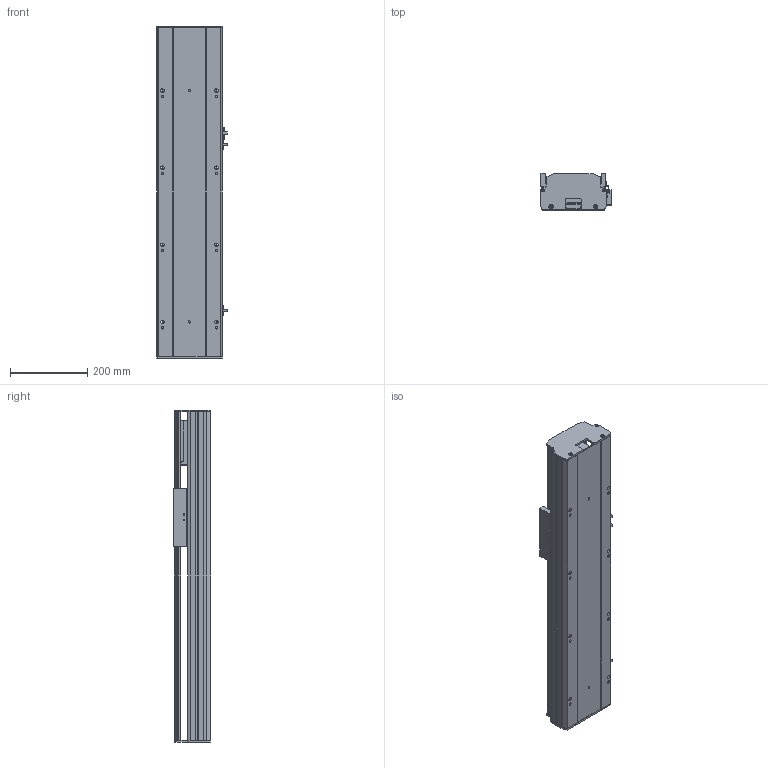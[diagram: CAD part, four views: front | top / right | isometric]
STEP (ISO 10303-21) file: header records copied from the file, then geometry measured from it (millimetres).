
FILE_DESCRIPTION (( 'STEP AP203' ), '1' );
FILE_NAME ('Y170-D10-S450-M-P400W.STEP', '2020-01-22T12:39:13', ( '微软用户' ), ( '微软中国' ), 'SwSTEP 2.0', 'SolidWorks 2017', '' );
FILE_SCHEMA (( 'CONFIG_CONTROL_DESIGN' ));
Length unit declared in the file: millimetre
Products named in the file (10): Y170-陔遴奻裔-M; YD-Y100-135-新外置传感挡片(通用）; Y170-D10-S450-M-P400W; Y100-135俋离換覜ん; 135-盓傅釱-FK15; Y170耜裔--準---; Y170--雄赽釱-梓--; 170--掛极-M; Y170耜裔--準---M; san松下电机400不带刹车----
Assembly tree (11 placements, depth 2):
  Y170-D10-S450-M-P400W
    YD-Y100-135-新外置传感挡片(通用）
    Y100-135俋离換覜ん  x3
    135-盓傅釱-FK15
    Y170耜裔--準---
    Y170--雄赽釱-梓--
    170--掛极-M
    Y170耜裔--準---M
    san松下电机400不带刹车----
    Y170-陔遴奻裔-M
Bounding box: 183.5 x 97 x 861 mm (x, y, z)
Volume: 3996799.9 mm3; surface area: 1376705.4 mm2
Topology: 11 solids, 11 shells, 761 faces, 2132 edges, 1412 vertices
Faces by surface type: plane 384, cylinder 375, torus 2
Entity records: 24300 total; most frequent: CARTESIAN_POINT 4225, DIRECTION 4062, ORIENTED_EDGE 3928, EDGE_CURVE 1964, AXIS2_PLACEMENT_3D 1433, VERTEX_POINT 1300, LINE 1196, VECTOR 1196
